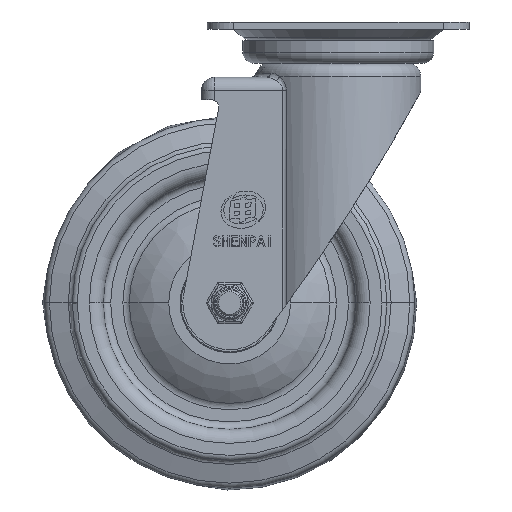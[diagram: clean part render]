
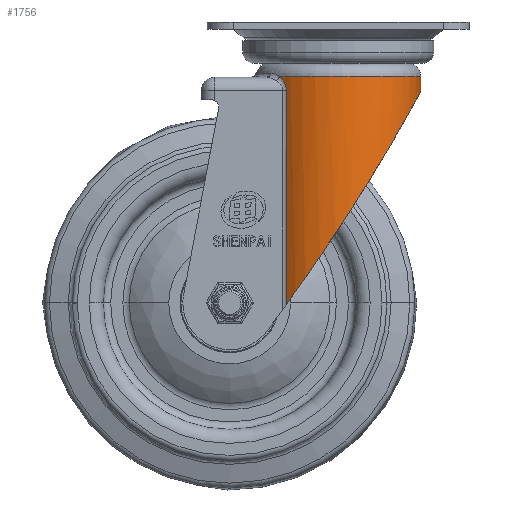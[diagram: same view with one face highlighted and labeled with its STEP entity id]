
A CAD part, front view. The second image highlights one B-rep face of the part: STEP entity #1756.
In plain terms, the highlighted cylindrical face has radius 44 mm (diameter 88 mm), a partial arc.
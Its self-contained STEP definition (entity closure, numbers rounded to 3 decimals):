
#282=CYLINDRICAL_SURFACE('',#16525,44.);
#935=FACE_OUTER_BOUND('',#5559,.T.);
#1756=ADVANCED_FACE('',(#935),#282,.T.);
#3306=CIRCLE('',#16499,44.);
#3320=CIRCLE('',#16523,44.);
#3959=LINE('',#27981,#4582);
#3962=LINE('',#28066,#4586);
#4582=VECTOR('',#19850,1.);
#4586=VECTOR('',#19882,1.);
#5559=EDGE_LOOP('',(#8673,#8674,#8675,#8676,#8677,#8678,#8679));
#8673=ORIENTED_EDGE('',*,*,#13806,.T.);
#8674=ORIENTED_EDGE('',*,*,#13802,.T.);
#8675=ORIENTED_EDGE('',*,*,#13800,.F.);
#8676=ORIENTED_EDGE('',*,*,#13785,.T.);
#8677=ORIENTED_EDGE('',*,*,#13782,.T.);
#8678=ORIENTED_EDGE('',*,*,#13777,.T.);
#8679=ORIENTED_EDGE('',*,*,#13813,.F.);
#11819=VERTEX_POINT('',#27860);
#11820=VERTEX_POINT('',#27862);
#11821=VERTEX_POINT('',#27925);
#11822=VERTEX_POINT('',#27978);
#11833=VERTEX_POINT('',#28055);
#11834=VERTEX_POINT('',#28067);
#11836=VERTEX_POINT('',#28078);
#13777=EDGE_CURVE('',#11820,#11819,#3306,.T.);
#13782=EDGE_CURVE('',#11821,#11820,#15232,.T.);
#13785=EDGE_CURVE('',#11822,#11821,#3959,.T.);
#13800=EDGE_CURVE('',#11822,#11833,#15237,.T.);
#13802=EDGE_CURVE('',#11834,#11833,#3962,.T.);
#13806=EDGE_CURVE('',#11836,#11834,#15242,.T.);
#13813=EDGE_CURVE('',#11836,#11819,#3320,.T.);
#15232=B_SPLINE_CURVE_WITH_KNOTS('',3,(#27926,#27927,#27928,#27929,#27930,
#27931,#27932,#27933,#27934,#27935,#27936,#27937),.UNSPECIFIED.,.F.,.F.,
(4,2,2,2,2,4),(0.,0.25,0.5,0.625,0.75,1.),.UNSPECIFIED.);
#15237=B_SPLINE_CURVE_WITH_KNOTS('',3,(#28019,#28020,#28021,#28022,#28023,
#28024,#28025,#28026,#28027,#28028,#28029,#28030,#28031,#28032,#28033,#28034,
#28035,#28036,#28037,#28038,#28039,#28040,#28041,#28042,#28043,#28044,#28045,
#28046,#28047,#28048,#28049,#28050,#28051,#28052,#28053,#28054),
 .UNSPECIFIED.,.F.,.F.,(4,2,2,2,2,2,2,2,2,2,2,2,2,2,2,2,2,4),(0.,0.063,
0.125,0.25,0.313,0.375,0.406,0.438,0.469,0.5,0.531,0.563,0.625,
0.688,0.75,0.875,0.938,1.),.UNSPECIFIED.);
#15242=B_SPLINE_CURVE_WITH_KNOTS('',3,(#28085,#28086,#28087,#28088,#28089,
#28090,#28091,#28092,#28093,#28094,#28095,#28096),.UNSPECIFIED.,.F.,.F.,
(4,2,2,2,2,4),(0.,0.25,0.375,0.5,0.75,1.),.UNSPECIFIED.);
#16499=AXIS2_PLACEMENT_3D('',#27861,#19843,#19844);
#16523=AXIS2_PLACEMENT_3D('',#28204,#19898,#19899);
#16525=AXIS2_PLACEMENT_3D('',#28206,#19902,#19903);
#19843=DIRECTION('',(0.,0.,-1.));
#19844=DIRECTION('',(-0.71,0.705,0.));
#19850=DIRECTION('',(0.,0.,1.));
#19882=DIRECTION('',(0.,0.,-1.));
#19898=DIRECTION('',(0.,0.,1.));
#19899=DIRECTION('',(-0.71,-0.705,0.));
#19902=DIRECTION('',(0.,0.,-1.));
#19903=DIRECTION('',(1.,0.,0.));
#27860=CARTESIAN_POINT('',(44.,0.,-29.025));
#27861=CARTESIAN_POINT('',(0.,0.,-29.025));
#27862=CARTESIAN_POINT('',(-31.224,31.001,-29.025));
#27925=CARTESIAN_POINT('',(-27.72,34.17,-36.525));
#27926=CARTESIAN_POINT('',(-27.72,34.17,-36.525));
#27927=CARTESIAN_POINT('',(-27.72,34.17,-35.848));
#27928=CARTESIAN_POINT('',(-27.796,34.109,-35.19));
#27929=CARTESIAN_POINT('',(-28.112,33.849,-33.851));
#27930=CARTESIAN_POINT('',(-28.345,33.656,-33.186));
#27931=CARTESIAN_POINT('',(-28.76,33.3,-32.297));
#27932=CARTESIAN_POINT('',(-28.913,33.168,-32.008));
#27933=CARTESIAN_POINT('',(-29.283,32.842,-31.38));
#27934=CARTESIAN_POINT('',(-29.463,32.681,-31.101));
#27935=CARTESIAN_POINT('',(-30.149,32.054,-30.143));
#27936=CARTESIAN_POINT('',(-30.663,31.566,-29.558));
#27937=CARTESIAN_POINT('',(-31.224,31.001,-29.025));
#27978=CARTESIAN_POINT('',(-27.72,34.17,-150.804));
#27981=CARTESIAN_POINT('',(-27.72,34.17,-7.601));
#28019=CARTESIAN_POINT('',(-27.72,34.17,-150.804));
#28020=CARTESIAN_POINT('',(-24.294,36.95,-146.028));
#28021=CARTESIAN_POINT('',(-20.778,38.977,-141.059));
#28022=CARTESIAN_POINT('',(-13.66,42.004,-130.832));
#28023=CARTESIAN_POINT('',(-10.028,42.994,-125.529));
#28024=CARTESIAN_POINT('',(0.702,44.585,-109.573));
#28025=CARTESIAN_POINT('',(7.637,43.908,-98.878));
#28026=CARTESIAN_POINT('',(17.689,40.443,-82.727));
#28027=CARTESIAN_POINT('',(20.956,38.868,-77.365));
#28028=CARTESIAN_POINT('',(27.192,34.792,-66.911));
#28029=CARTESIAN_POINT('',(30.201,32.277,-61.753));
#28030=CARTESIAN_POINT('',(34.395,27.522,-54.412));
#28031=CARTESIAN_POINT('',(35.731,25.781,-52.047));
#28032=CARTESIAN_POINT('',(38.249,21.873,-47.548));
#28033=CARTESIAN_POINT('',(39.429,19.703,-45.415));
#28034=CARTESIAN_POINT('',(41.487,14.888,-41.667));
#28035=CARTESIAN_POINT('',(42.388,12.179,-40.009));
#28036=CARTESIAN_POINT('',(43.652,6.291,-37.674));
#28037=CARTESIAN_POINT('',(44.012,3.05,-37.002));
#28038=CARTESIAN_POINT('',(43.987,-3.392,-37.049));
#28039=CARTESIAN_POINT('',(43.605,-6.617,-37.76));
#28040=CARTESIAN_POINT('',(42.285,-12.536,-40.198));
#28041=CARTESIAN_POINT('',(41.389,-15.162,-41.847));
#28042=CARTESIAN_POINT('',(38.243,-22.384,-47.572));
#28043=CARTESIAN_POINT('',(35.663,-26.114,-52.195));
#28044=CARTESIAN_POINT('',(30.044,-32.422,-62.024));
#28045=CARTESIAN_POINT('',(27.066,-34.888,-67.125));
#28046=CARTESIAN_POINT('',(20.846,-38.925,-77.545));
#28047=CARTESIAN_POINT('',(17.582,-40.489,-82.901));
#28048=CARTESIAN_POINT('',(7.554,-43.919,-99.006));
#28049=CARTESIAN_POINT('',(0.638,-44.582,-109.669));
#28050=CARTESIAN_POINT('',(-10.059,-42.986,-125.575));
#28051=CARTESIAN_POINT('',(-13.686,-41.995,-130.87));
#28052=CARTESIAN_POINT('',(-20.793,-38.969,-141.081));
#28053=CARTESIAN_POINT('',(-24.302,-36.943,-146.039));
#28054=CARTESIAN_POINT('',(-27.72,-34.17,-150.804));
#28055=CARTESIAN_POINT('',(-27.72,-34.17,-150.804));
#28066=CARTESIAN_POINT('',(-27.72,-34.17,-7.601));
#28067=CARTESIAN_POINT('',(-27.72,-34.17,-36.525));
#28078=CARTESIAN_POINT('',(-31.224,-31.001,-29.025));
#28085=CARTESIAN_POINT('',(-31.224,-31.001,-29.025));
#28086=CARTESIAN_POINT('',(-30.633,-31.596,-29.586));
#28087=CARTESIAN_POINT('',(-30.063,-32.134,-30.252));
#28088=CARTESIAN_POINT('',(-29.407,-32.731,-31.185));
#28089=CARTESIAN_POINT('',(-29.204,-32.911,-31.502));
#28090=CARTESIAN_POINT('',(-28.835,-33.235,-32.152));
#28091=CARTESIAN_POINT('',(-28.656,-33.39,-32.513));
#28092=CARTESIAN_POINT('',(-28.248,-33.737,-33.446));
#28093=CARTESIAN_POINT('',(-28.033,-33.914,-34.123));
#28094=CARTESIAN_POINT('',(-27.783,-34.119,-35.321));
#28095=CARTESIAN_POINT('',(-27.72,-34.17,-35.922));
#28096=CARTESIAN_POINT('',(-27.72,-34.17,-36.525));
#28204=CARTESIAN_POINT('',(0.,0.,-29.025));
#28206=CARTESIAN_POINT('',(0.,0.,-7.601));
